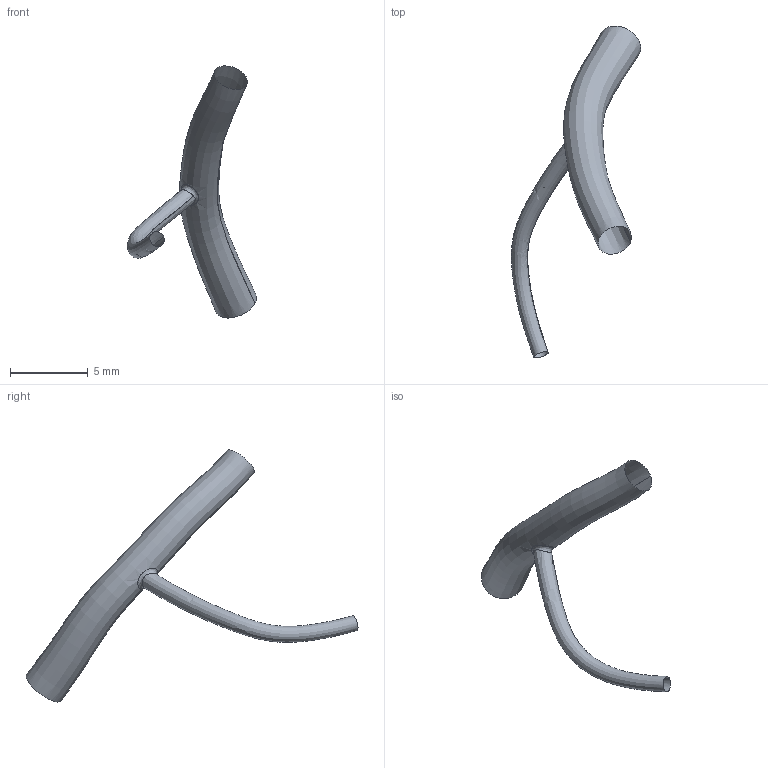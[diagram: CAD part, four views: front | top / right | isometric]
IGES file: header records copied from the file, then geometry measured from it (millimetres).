
Global section: file name: C:\Documents and Settings\Administrator\Desktop\FDA-Pig\Domestic LCA\Pig_000138\om.ed.igs; native system: Rhinoceros ( May 19 2006 ); preprocessor: Trout Lake IGES 012 May 19 2006; date: 111205.184721; units: centimetre
Bounding box: 8.34 x 21.4 x 16.26 mm (x, y, z)
Surface area: 208.9 mm2 (no closed solid volume)
Topology: 0 solids, 0 shells, 3 faces, 28 edges, 25 vertices
Faces by surface type: bspline 3
